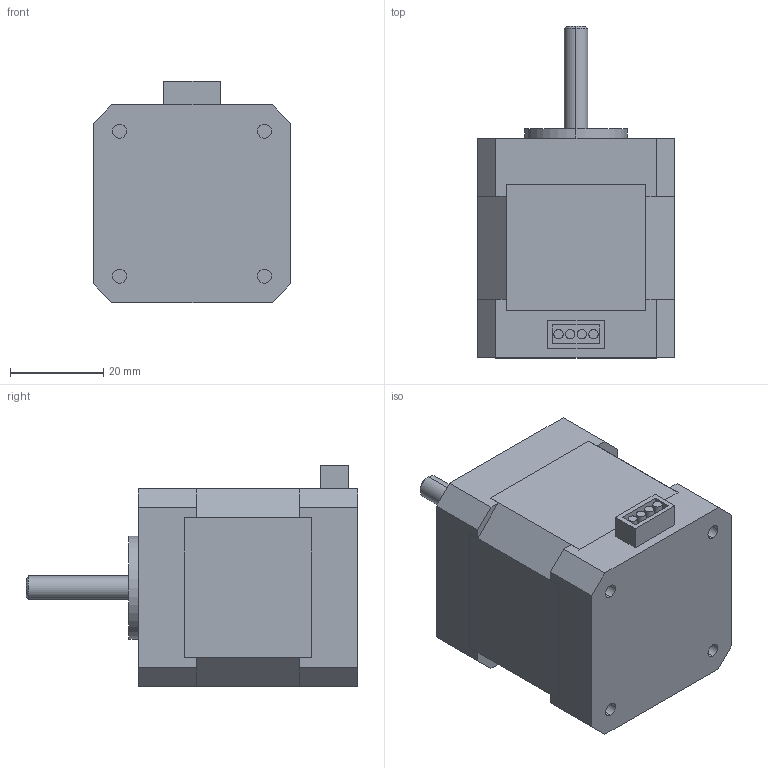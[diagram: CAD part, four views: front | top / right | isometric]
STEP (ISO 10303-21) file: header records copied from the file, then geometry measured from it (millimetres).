
FILE_DESCRIPTION (( 'STEP AP214' ), '1' );
FILE_NAME ('NEMA17_STEPPER.STEP', '2022-11-08T08:03:44', ( '' ), ( '' ), 'SwSTEP 2.0', 'SolidWorks 2021', '' );
FILE_SCHEMA (( 'AUTOMOTIVE_DESIGN' ));
Length unit declared in the file: millimetre
Products named in the file (1): NEMA17_STEPPER
Bounding box: 42.3 x 71 x 47.3 mm (x, y, z)
Volume: 82296.3 mm3; surface area: 20326.8 mm2
Topology: 5 solids, 5 shells, 105 faces, 238 edges, 158 vertices
Faces by surface type: plane 73, cylinder 28, cone 4
Entity records: 4075 total; most frequent: DIRECTION 512, CARTESIAN_POINT 502, ORIENTED_EDGE 476, EDGE_CURVE 238, LINE 176, VECTOR 176, AXIS2_PLACEMENT_3D 168, VERTEX_POINT 158
